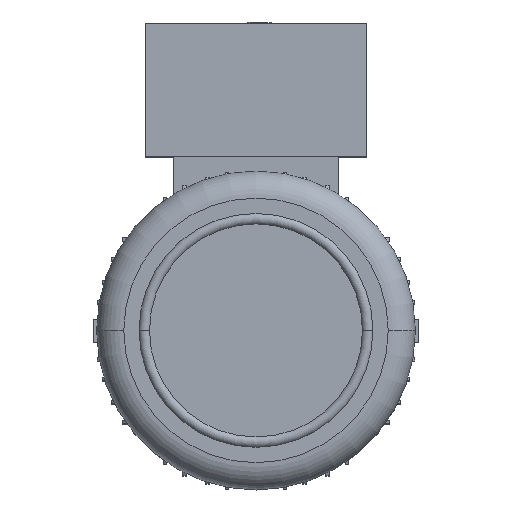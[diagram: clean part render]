
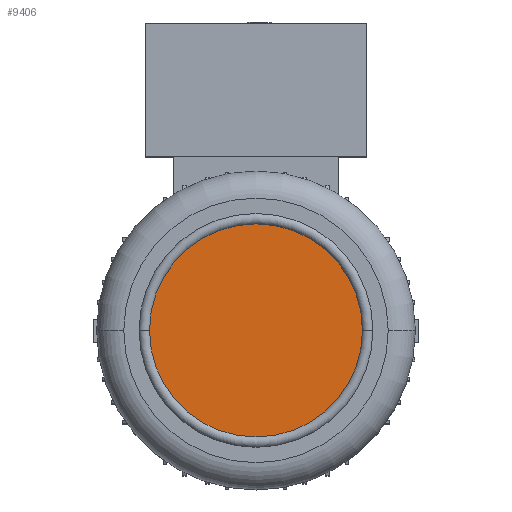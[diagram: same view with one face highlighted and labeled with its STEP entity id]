
A CAD part, top view. The second image highlights one B-rep face of the part: STEP entity #9406.
In plain terms, the highlighted planar face has unit normal (0, 0, 1).
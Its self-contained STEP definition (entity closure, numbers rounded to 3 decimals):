
#1100 = EDGE_CURVE ( 'NONE', #3090, #3303, #2401, .T. ) ;
#1730 = EDGE_CURVE ( 'NONE', #3303, #3090, #2013, .T. ) ;
#2013 = CIRCLE ( 'NONE', #26600, 64.838 ) ;
#2401 = CIRCLE ( 'NONE', #9054, 64.838 ) ;
#3072 = EDGE_LOOP ( 'NONE', ( #27602, #7972 ) ) ;
#3090 = VERTEX_POINT ( 'NONE', #8601 ) ;
#3303 = VERTEX_POINT ( 'NONE', #20422 ) ;
#4524 = AXIS2_PLACEMENT_3D ( 'NONE', #26166, #12960, #28376 ) ;
#6577 = DIRECTION ( 'NONE',  ( 0., 0., -1. ) ) ;
#7972 = ORIENTED_EDGE ( 'NONE', *, *, #1730, .F. ) ;
#8601 = CARTESIAN_POINT ( 'NONE',  ( -64.838, 0., 178. ) ) ;
#8802 = DIRECTION ( 'NONE',  ( 0., 0., -1. ) ) ;
#9054 = AXIS2_PLACEMENT_3D ( 'NONE', #19850, #6577, #21667 ) ;
#9406 = ADVANCED_FACE ( 'NONE', ( #10080 ), #23976, .T. ) ;
#10080 = FACE_OUTER_BOUND ( 'NONE', #3072, .T. ) ;
#12960 = DIRECTION ( 'NONE',  ( 0., 0., 1. ) ) ;
#19654 = DIRECTION ( 'NONE',  ( -1., 0., 0. ) ) ;
#19850 = CARTESIAN_POINT ( 'NONE',  ( 0., 0., 178. ) ) ;
#20422 = CARTESIAN_POINT ( 'NONE',  ( 64.838, 0., 178. ) ) ;
#21667 = DIRECTION ( 'NONE',  ( -1., 0., 0. ) ) ;
#22130 = CARTESIAN_POINT ( 'NONE',  ( 0., 0., 178. ) ) ;
#23976 = PLANE ( 'NONE',  #4524 ) ;
#26166 = CARTESIAN_POINT ( 'NONE',  ( 0., 64.838, 178. ) ) ;
#26600 = AXIS2_PLACEMENT_3D ( 'NONE', #22130, #8802, #19654 ) ;
#27602 = ORIENTED_EDGE ( 'NONE', *, *, #1100, .F. ) ;
#28376 = DIRECTION ( 'NONE',  ( 1., 0., 0. ) ) ;
